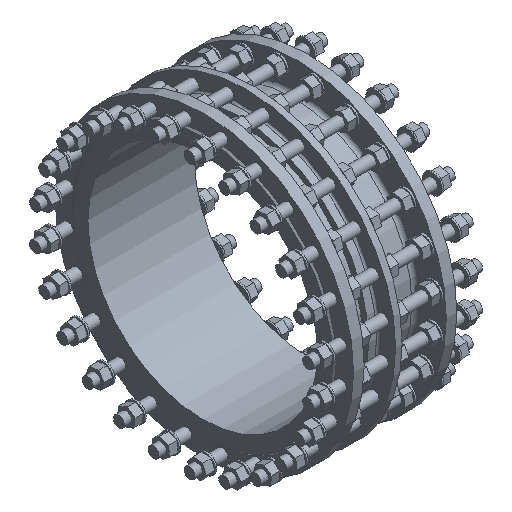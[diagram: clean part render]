
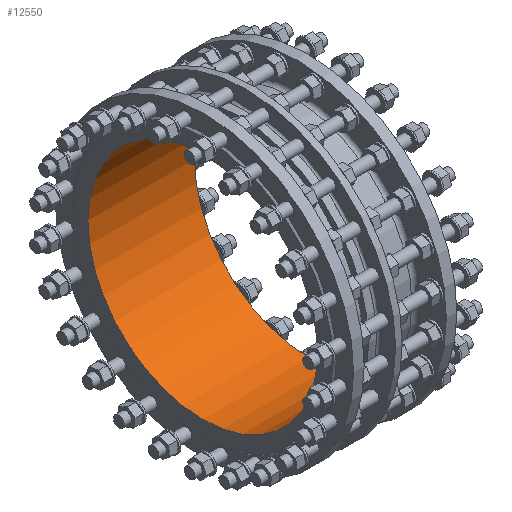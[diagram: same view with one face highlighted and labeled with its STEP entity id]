
A CAD part, isometric view. The second image highlights one B-rep face of the part: STEP entity #12550.
In plain terms, the highlighted cylindrical face has radius 350 mm (diameter 700 mm), a full revolution.
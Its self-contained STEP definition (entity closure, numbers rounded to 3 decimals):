
#1759 = CARTESIAN_POINT ( 'NONE',  ( 0., 0., 0. ) ) ;
#2043 = CARTESIAN_POINT ( 'NONE',  ( -70., 0., -350. ) ) ;
#5781 = EDGE_LOOP ( 'NONE', ( #16428 ) ) ;
#6387 = CIRCLE ( 'NONE', #35212, 350. ) ;
#6402 = AXIS2_PLACEMENT_3D ( 'NONE', #1759, #34025, #30760 ) ;
#9320 = AXIS2_PLACEMENT_3D ( 'NONE', #25881, #17076, #28952 ) ;
#10150 = ORIENTED_EDGE ( 'NONE', *, *, #14903, .F. ) ;
#10699 = VERTEX_POINT ( 'NONE', #2043 ) ;
#12550 = ADVANCED_FACE ( 'NONE', ( #24793, #36899 ), #28258, .F. ) ;
#12883 = EDGE_LOOP ( 'NONE', ( #10150 ) ) ;
#14903 = EDGE_CURVE ( 'NONE', #10699, #10699, #6387, .T. ) ;
#15249 = DIRECTION ( 'NONE',  ( 1., 0., 0. ) ) ;
#16092 = CIRCLE ( 'NONE', #9320, 350. ) ;
#16428 = ORIENTED_EDGE ( 'NONE', *, *, #22989, .F. ) ;
#17076 = DIRECTION ( 'NONE',  ( -1., 0., 0. ) ) ;
#22989 = EDGE_CURVE ( 'NONE', #35168, #35168, #16092, .T. ) ;
#23326 = CARTESIAN_POINT ( 'NONE',  ( -70., 0., 0. ) ) ;
#24793 = FACE_OUTER_BOUND ( 'NONE', #5781, .T. ) ;
#25881 = CARTESIAN_POINT ( 'NONE',  ( 255., 0., 0. ) ) ;
#26693 = CARTESIAN_POINT ( 'NONE',  ( 255., 0., 350. ) ) ;
#26953 = DIRECTION ( 'NONE',  ( 0., 0., -1. ) ) ;
#28258 = CYLINDRICAL_SURFACE ( 'NONE', #6402, 350. ) ;
#28952 = DIRECTION ( 'NONE',  ( 0., 0., 1. ) ) ;
#30760 = DIRECTION ( 'NONE',  ( 0., 0., 1. ) ) ;
#34025 = DIRECTION ( 'NONE',  ( -1., 0., 0. ) ) ;
#35168 = VERTEX_POINT ( 'NONE', #26693 ) ;
#35212 = AXIS2_PLACEMENT_3D ( 'NONE', #23326, #15249, #26953 ) ;
#36899 = FACE_OUTER_BOUND ( 'NONE', #12883, .T. ) ;
